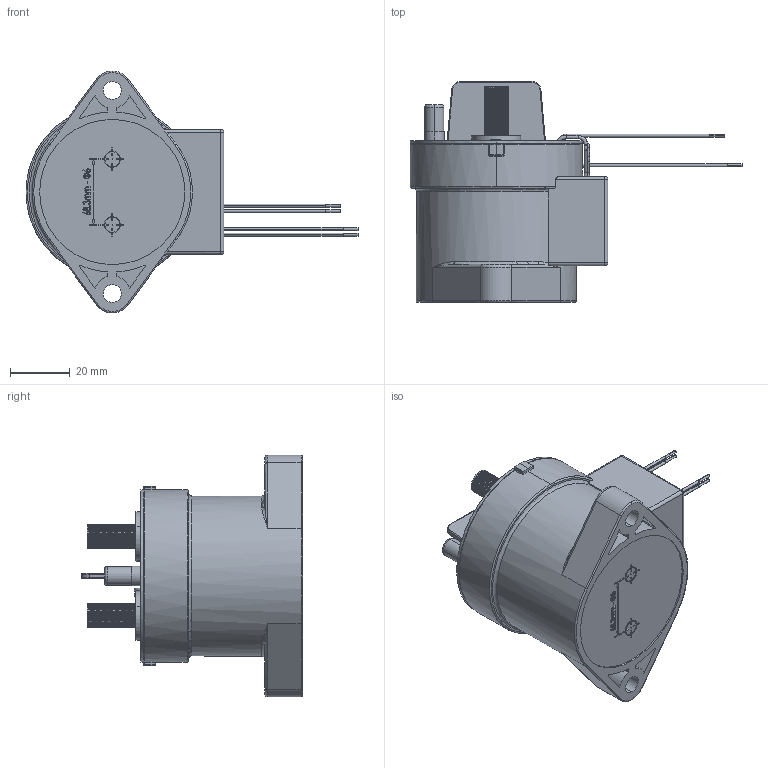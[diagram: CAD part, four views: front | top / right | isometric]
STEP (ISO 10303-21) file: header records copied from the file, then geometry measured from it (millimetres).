
FILE_DESCRIPTION((''),'2;1');
FILE_NAME('10040-2__-250A0001','2022-09-21T15:24:21',('Administrator'),(''),'CREO PARAMETRIC BY PTC INC, 2020053','CREO PARAMETRIC BY PTC INC, 2020053','');
FILE_SCHEMA(('AP242_MANAGED_MODEL_BASED_3D_ENGINEERING_MIM_LF { 1 0 10303 442 1 1 4 }'));
Length unit declared in the file: millimetre
Products named in the file (1): 10040-2__-250A0001
Bounding box: 111.59 x 74.3 x 81.3 mm (x, y, z)
Volume: 90947.5 mm3; surface area: 36692.7 mm2
Topology: 1 solids, 5 shells, 1158 faces, 3061 edges, 1954 vertices
Faces by surface type: cylinder 475, plane 374, torus 132, extrusion 109, bspline 30, sphere 24, cone 14
Entity records: 116141 total; most frequent: CARTESIAN_POINT 73639, ORIENTED_EDGE 6070, DIRECTION 5300, PRESENTATION_STYLE_ASSIGNMENT 3809, STYLED_ITEM 3066, CURVE_STYLE 3065, EDGE_CURVE 3035, VERTEX_POINT 1954
